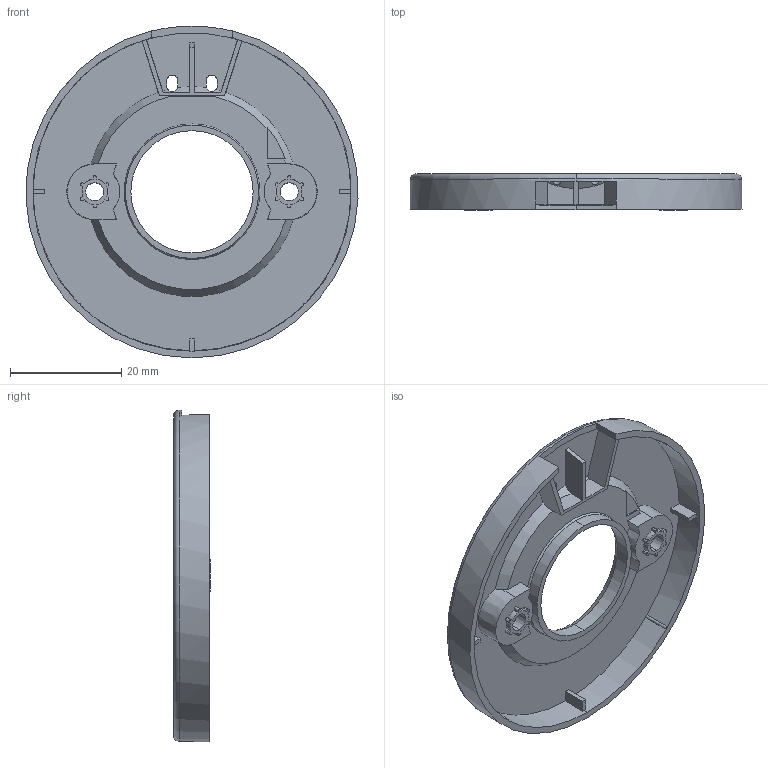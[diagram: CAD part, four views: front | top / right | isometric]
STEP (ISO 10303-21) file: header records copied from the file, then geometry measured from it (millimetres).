
FILE_DESCRIPTION (( 'STEP AP214' ), '1' );
FILE_NAME ('EDC Holder 3D file (VS).STEP', '2015-08-06T09:05:10', ( 'Admin' ), ( 'Microsoft' ), 'SwSTEP 2.0', 'SolidWorks 2015', '' );
FILE_SCHEMA (( 'AUTOMOTIVE_DESIGN' ));
Length unit declared in the file: millimetre
Products named in the file (1): EDC Holder 3D file (VS)
Bounding box: 59.76 x 6.6 x 59.71 mm (x, y, z)
Volume: 4401.1 mm3; surface area: 8258.4 mm2
Topology: 1 solids, 1 shells, 790 faces, 2190 edges, 1458 vertices
Faces by surface type: plane 388, bspline 309, cone 73, cylinder 18, torus 2
Entity records: 27048 total; most frequent: CARTESIAN_POINT 8934, ORIENTED_EDGE 4380, DIRECTION 2626, EDGE_CURVE 2190, VERTEX_POINT 1458, LINE 1254, VECTOR 1254, EDGE_LOOP 856
